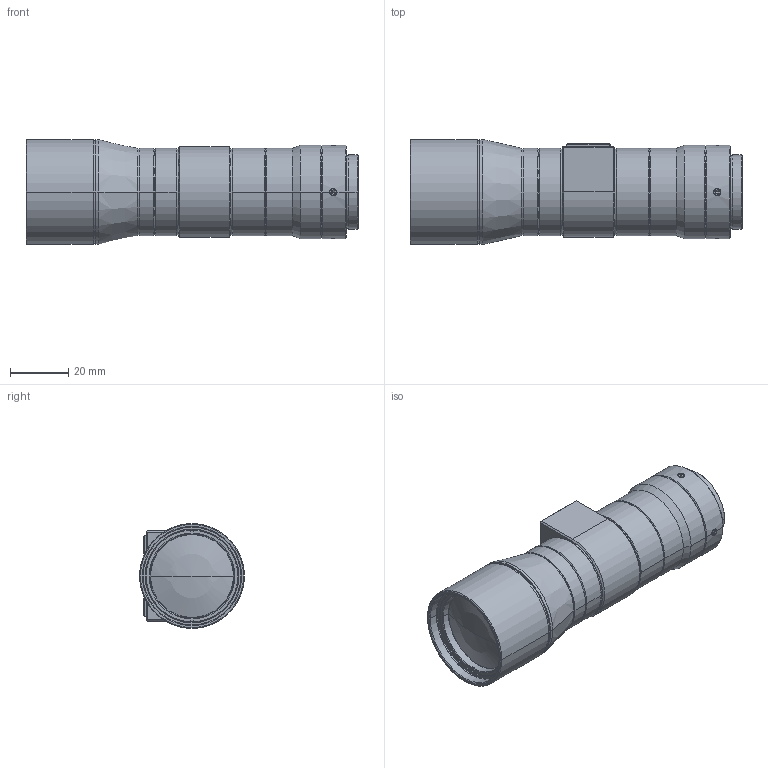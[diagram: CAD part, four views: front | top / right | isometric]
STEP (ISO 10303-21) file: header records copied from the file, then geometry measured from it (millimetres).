
FILE_DESCRIPTION((''),'2;1');
FILE_NAME('OPT-CH10-110FC-F6_5_SW0001','2024-04-27T10:26:58',('李亦'),(''),'CREO PARAMETRIC BY PTC INC, 2020354','CREO PARAMETRIC BY PTC INC, 2020354','');
FILE_SCHEMA(('AUTOMOTIVE_DESIGN { 1 0 10303 214 1 1 1 1 }'));
Length unit declared in the file: millimetre
Products named in the file (1): OPT-CH10-110FC-F6_5_SW0001
Bounding box: 113.87 x 36 x 36 mm (x, y, z)
Volume: 87775.6 mm3; surface area: 17303.2 mm2
Topology: 1 solids, 1 shells, 411 faces, 976 edges, 575 vertices
Faces by surface type: plane 194, cone 94, cylinder 83, bspline 24, torus 12, sphere 4
Entity records: 14354 total; most frequent: CARTESIAN_POINT 5055, DIRECTION 1918, ORIENTED_EDGE 1888, EDGE_CURVE 944, AXIS2_PLACEMENT_3D 702, VERTEX_POINT 613, VECTOR 514, LINE 514
